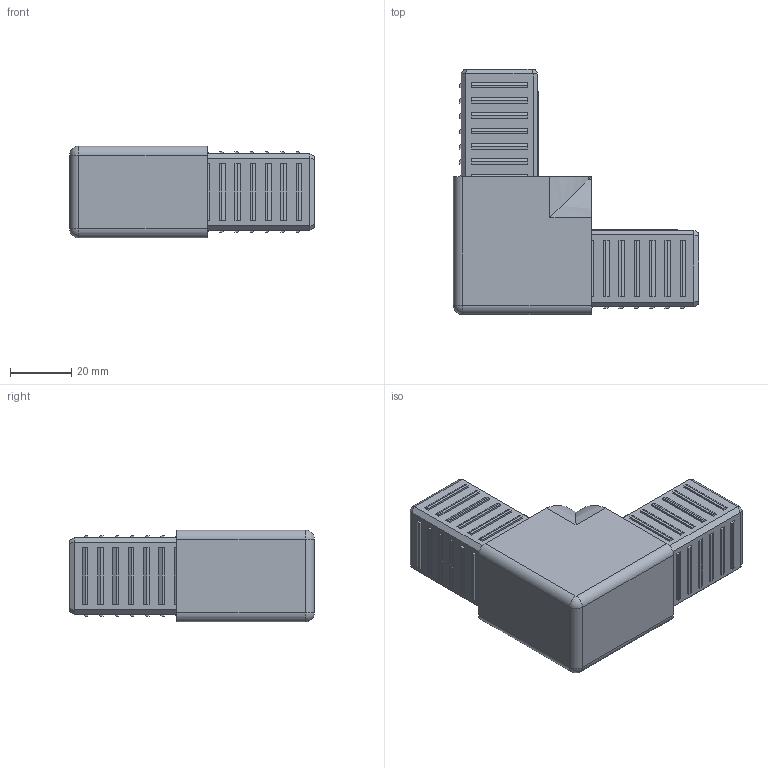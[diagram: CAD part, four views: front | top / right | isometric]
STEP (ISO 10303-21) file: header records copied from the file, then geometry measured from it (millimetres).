
FILE_DESCRIPTION (( 'STEP AP203' ), '1' );
FILE_NAME ('013.030.101.STEP', '2020-09-28T06:28:16', ( '' ), ( '' ), 'SwSTEP 2.0', 'SolidWorks 2018', '' );
FILE_SCHEMA (( 'CONFIG_CONTROL_DESIGN' ));
Length unit declared in the file: millimetre
Products named in the file (1): 013.030.101
Bounding box: 80 x 80 x 30 mm (x, y, z)
Volume: 52238.3 mm3; surface area: 33872.8 mm2
Topology: 1 solids, 1 shells, 362 faces, 942 edges, 614 vertices
Faces by surface type: plane 308, cylinder 34, cone 13, torus 3, sphere 2, bspline 2
Entity records: 11186 total; most frequent: CARTESIAN_POINT 2248, ORIENTED_EDGE 1880, DIRECTION 1701, EDGE_CURVE 940, LINE 819, VECTOR 819, VERTEX_POINT 614, AXIS2_PLACEMENT_3D 441
